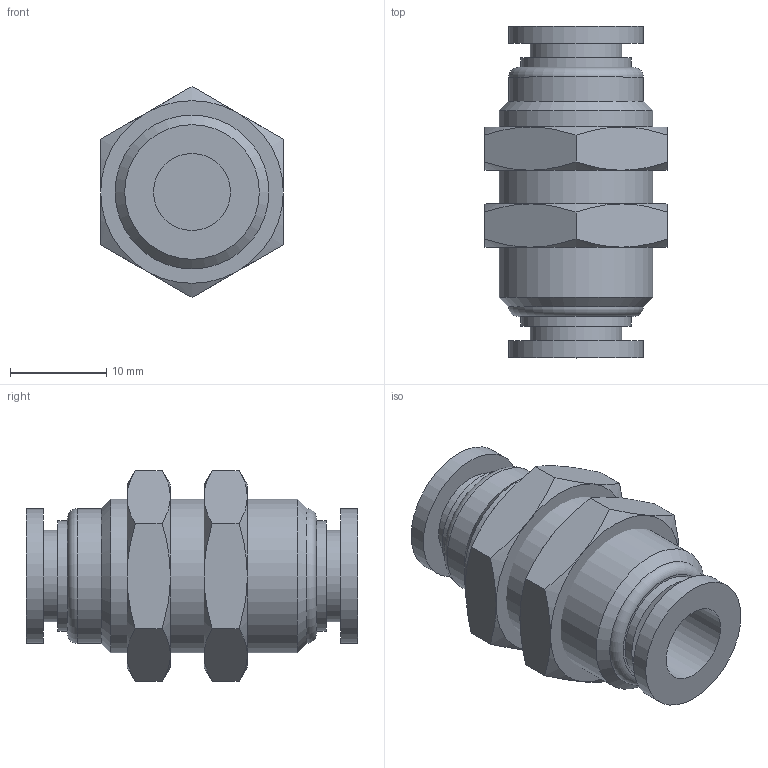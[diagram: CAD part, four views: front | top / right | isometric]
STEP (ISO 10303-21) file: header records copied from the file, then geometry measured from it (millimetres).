
FILE_DESCRIPTION((''),'2;1');
FILE_NAME('S:\UTecnico\ArchivioUT\Speciali Clienti\Speciali KONFIT\DISEGNI 3D\RP\RP 60\RP600008.stp','2013-02-18T14:40:57',('UT5'),(''),'Autodesk Inventor 2013','Autodesk Inventor 2013','');
FILE_SCHEMA(('AUTOMOTIVE_DESIGN { 1 0 10303 214 1 1 1 1 }'));
Length unit declared in the file: millimetre
Products named in the file (1): RP600008
Bounding box: 19 x 34.5 x 21.94 mm (x, y, z)
Volume: 6953.3 mm3; surface area: 4778.8 mm2
Topology: 3 solids, 3 shells, 61 faces, 119 edges, 70 vertices
Faces by surface type: cone 26, plane 24, cylinder 9, torus 2
Full cylindrical faces by diameter (mm): 8 x1, 9.5 x2, 11.5 x2, 14 x3, 16 x1
Entity records: 1462 total; most frequent: CARTESIAN_POINT 332, DIRECTION 226, ORIENTED_EDGE 210, AXIS2_PLACEMENT_3D 107, EDGE_CURVE 105, EDGE_LOOP 82, VERTEX_POINT 69, FACE_OUTER_BOUND 61
